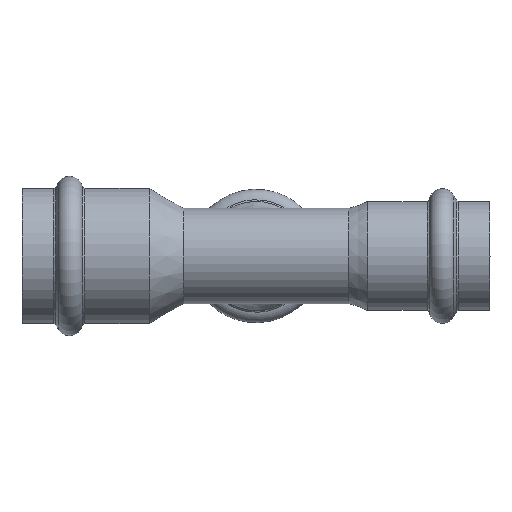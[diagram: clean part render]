
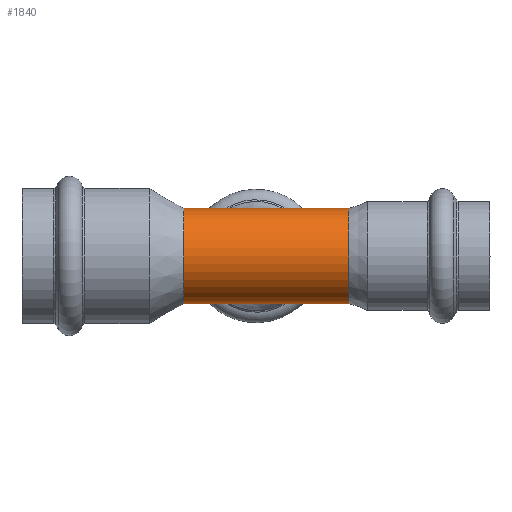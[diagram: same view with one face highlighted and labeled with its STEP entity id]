
A CAD part, front view. The second image highlights one B-rep face of the part: STEP entity #1840.
In plain terms, the highlighted cylindrical face has radius 11 mm (diameter 22 mm), a full revolution.
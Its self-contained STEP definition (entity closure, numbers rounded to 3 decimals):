
#1157=CARTESIAN_POINT('',(0.,0.0,-11.0));
#1158=VERTEX_POINT('',#1157);
#1159=CARTESIAN_POINT('',(0.,0.0,11.0));
#1160=VERTEX_POINT('',#1159);
#1168=CARTESIAN_POINT('',(0.0,0.,0.0));
#1169=DIRECTION('',(-0.676,0.737,0.));
#1170=DIRECTION('',(0.737,0.676,0.0));
#1171=AXIS2_PLACEMENT_3D('',#1168,#1169,#1170);
#1172=ELLIPSE('',#1171,16.279,11.);
#1173=EDGE_CURVE('',#1160,#1158,#1172,.T.);
#1330=CARTESIAN_POINT('',(0.,0.,0.0));
#1331=DIRECTION('',(0.676,0.737,0.));
#1332=DIRECTION('',(-0.737,0.676,0.0));
#1333=AXIS2_PLACEMENT_3D('',#1330,#1331,#1332);
#1334=ELLIPSE('',#1333,16.279,11.);
#1335=EDGE_CURVE('',#1158,#1160,#1334,.T.);
#1802=CARTESIAN_POINT('',(-16.631,11.,0.0));
#1803=VERTEX_POINT('',#1802);
#1804=CARTESIAN_POINT('',(-16.631,0.,0.0));
#1805=DIRECTION('',(1.0,0.0,0.0));
#1806=DIRECTION('',(0.0,1.0,0.0));
#1807=AXIS2_PLACEMENT_3D('',#1804,#1805,#1806);
#1808=CIRCLE('',#1807,11.);
#1809=EDGE_CURVE('',#1803,#1803,#1808,.T.);
#1817=CARTESIAN_POINT('',(2.389,0.,0.0));
#1818=DIRECTION('',(1.0,0.,0.0));
#1819=DIRECTION('',(0.0,1.0,0.0));
#1820=AXIS2_PLACEMENT_3D('',#1817,#1818,#1819);
#1821=CYLINDRICAL_SURFACE('',#1820,11.);
#1822=CARTESIAN_POINT('',(21.408,11.,0.0));
#1823=VERTEX_POINT('',#1822);
#1824=CARTESIAN_POINT('',(21.408,0.,0.0));
#1825=DIRECTION('',(1.0,0.0,0.0));
#1826=DIRECTION('',(0.0,1.0,0.0));
#1827=AXIS2_PLACEMENT_3D('',#1824,#1825,#1826);
#1828=CIRCLE('',#1827,11.);
#1829=EDGE_CURVE('',#1823,#1823,#1828,.T.);
#1830=ORIENTED_EDGE('',*,*,#1829,.F.);
#1831=EDGE_LOOP('',(#1830));
#1832=FACE_OUTER_BOUND('',#1831,.T.);
#1833=ORIENTED_EDGE('',*,*,#1173,.F.);
#1834=ORIENTED_EDGE('',*,*,#1335,.F.);
#1835=EDGE_LOOP('',(#1833,#1834));
#1836=FACE_BOUND('',#1835,.T.);
#1837=ORIENTED_EDGE('',*,*,#1809,.T.);
#1838=EDGE_LOOP('',(#1837));
#1839=FACE_BOUND('',#1838,.T.);
#1840=ADVANCED_FACE('',(#1832,#1836,#1839),#1821,.T.);
